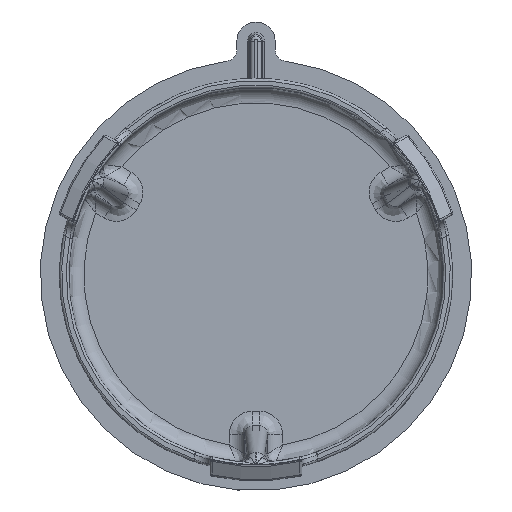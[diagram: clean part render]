
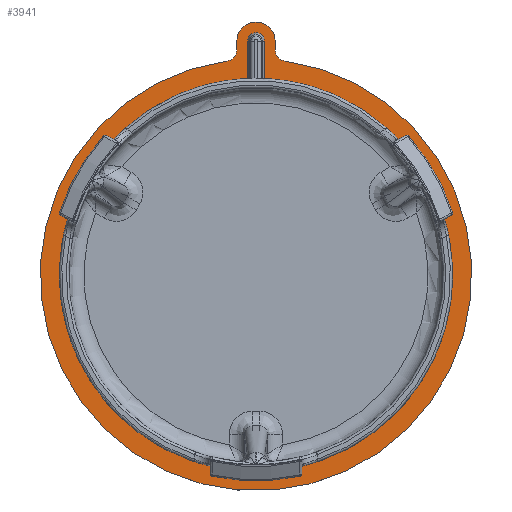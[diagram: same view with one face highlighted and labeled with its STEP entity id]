
A CAD part, top view. The second image highlights one B-rep face of the part: STEP entity #3941.
In plain terms, the highlighted planar face has unit normal (0, 0, 1).
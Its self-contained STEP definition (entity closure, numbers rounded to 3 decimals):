
#102=CARTESIAN_POINT('',(0.,0.,0.));
#103=DIRECTION('',(0.,0.,-1.));
#104=DIRECTION('',(0.043,0.999,0.));
#105=AXIS2_PLACEMENT_3D('',#102,#103,#104);
#300=DIRECTION('',(0.,1.,0.));
#301=VECTOR('',#300,1.121);
#302=CARTESIAN_POINT('',(-2.5,29.379,0.));
#303=LINE('',#302,#301);
#304=CARTESIAN_POINT('',(0.,30.5,0.));
#305=DIRECTION('',(0.,0.,-1.));
#306=DIRECTION('',(-1.,0.,0.));
#307=AXIS2_PLACEMENT_3D('',#304,#305,#306);
#309=DIRECTION('',(0.,-1.,0.));
#310=VECTOR('',#309,1.121);
#311=CARTESIAN_POINT('',(2.5,30.5,0.));
#312=LINE('',#311,#310);
#313=DIRECTION('',(0.,-1.,0.));
#314=VECTOR('',#313,4.874);
#315=CARTESIAN_POINT('',(-1.1,30.5,0.));
#316=LINE('',#315,#314);
#317=DIRECTION('',(0.,1.,0.));
#318=VECTOR('',#317,4.874);
#319=CARTESIAN_POINT('',(1.1,25.626,0.));
#320=LINE('',#319,#318);
#321=CARTESIAN_POINT('',(0.,30.5,0.));
#322=DIRECTION('',(0.,0.,1.));
#323=DIRECTION('',(1.,0.,0.));
#324=AXIS2_PLACEMENT_3D('',#321,#322,#323);
#335=CARTESIAN_POINT('',(0.,0.,0.));
#336=DIRECTION('',(0.,0.,1.));
#337=DIRECTION('',(-0.135,0.991,0.));
#338=AXIS2_PLACEMENT_3D('',#335,#336,#337);
#377=CARTESIAN_POINT('',(4.,29.379,0.));
#378=DIRECTION('',(0.,0.,-1.));
#379=DIRECTION('',(-0.135,-0.991,0.));
#380=AXIS2_PLACEMENT_3D('',#377,#378,#379);
#472=CARTESIAN_POINT('',(-4.,29.379,0.));
#473=DIRECTION('',(0.,0.,-1.));
#474=DIRECTION('',(1.,0.,0.));
#475=AXIS2_PLACEMENT_3D('',#472,#473,#474);
#3292=CARTESIAN_POINT('',(-2.5,30.5,0.));
#3293=CARTESIAN_POINT('',(2.5,30.5,0.));
#3294=VERTEX_POINT('',#3292);
#3295=VERTEX_POINT('',#3293);
#3296=CARTESIAN_POINT('',(2.5,29.379,0.));
#3297=VERTEX_POINT('',#3296);
#3298=CARTESIAN_POINT('',(-2.5,29.379,0.));
#3299=VERTEX_POINT('',#3298);
#3300=CARTESIAN_POINT('',(-3.798,27.893,0.));
#3301=CARTESIAN_POINT('',(3.798,27.893,0.));
#3302=VERTEX_POINT('',#3300);
#3303=VERTEX_POINT('',#3301);
#3320=CARTESIAN_POINT('',(-1.1,30.5,0.));
#3321=CARTESIAN_POINT('',(-1.1,25.626,0.));
#3322=VERTEX_POINT('',#3320);
#3323=VERTEX_POINT('',#3321);
#3324=CARTESIAN_POINT('',(1.1,25.626,0.));
#3325=CARTESIAN_POINT('',(1.1,30.5,0.));
#3326=VERTEX_POINT('',#3324);
#3327=VERTEX_POINT('',#3325);
#3914=CARTESIAN_POINT('',(0.,0.,0.));
#3915=DIRECTION('',(0.,0.,-1.));
#3916=DIRECTION('',(-1.,0.,0.));
#3917=AXIS2_PLACEMENT_3D('',#3914,#3915,#3916);
#3918=PLANE('',#3917);
#3920=ORIENTED_EDGE('',*,*,#3919,.F.);
#3922=ORIENTED_EDGE('',*,*,#3921,.F.);
#3924=ORIENTED_EDGE('',*,*,#3923,.T.);
#3926=ORIENTED_EDGE('',*,*,#3925,.T.);
#3928=ORIENTED_EDGE('',*,*,#3927,.T.);
#3930=ORIENTED_EDGE('',*,*,#3929,.F.);
#3931=EDGE_LOOP('',(#3920,#3922,#3924,#3926,#3928,#3930));
#3932=FACE_OUTER_BOUND('',#3931,.F.);
#3933=ORIENTED_EDGE('',*,*,#3907,.T.);
#3934=ORIENTED_EDGE('',*,*,#3781,.F.);
#3936=ORIENTED_EDGE('',*,*,#3935,.T.);
#3938=ORIENTED_EDGE('',*,*,#3937,.T.);
#3939=EDGE_LOOP('',(#3933,#3934,#3936,#3938));
#3940=FACE_BOUND('',#3939,.F.);
#106=CIRCLE('',#105,25.65);
#308=CIRCLE('',#307,2.5);
#325=CIRCLE('',#324,1.1);
#339=CIRCLE('',#338,28.15);
#381=CIRCLE('',#380,1.5);
#476=CIRCLE('',#475,1.5);
#3781=EDGE_CURVE('',#3326,#3323,#106,.T.);
#3907=EDGE_CURVE('',#3322,#3323,#316,.T.);
#3919=EDGE_CURVE('',#3302,#3303,#339,.T.);
#3921=EDGE_CURVE('',#3299,#3302,#476,.T.);
#3923=EDGE_CURVE('',#3299,#3294,#303,.T.);
#3925=EDGE_CURVE('',#3294,#3295,#308,.T.);
#3927=EDGE_CURVE('',#3295,#3297,#312,.T.);
#3929=EDGE_CURVE('',#3303,#3297,#381,.T.);
#3935=EDGE_CURVE('',#3326,#3327,#320,.T.);
#3937=EDGE_CURVE('',#3327,#3322,#325,.T.);
#3941=ADVANCED_FACE('',(#3932,#3940),#3918,.F.);
